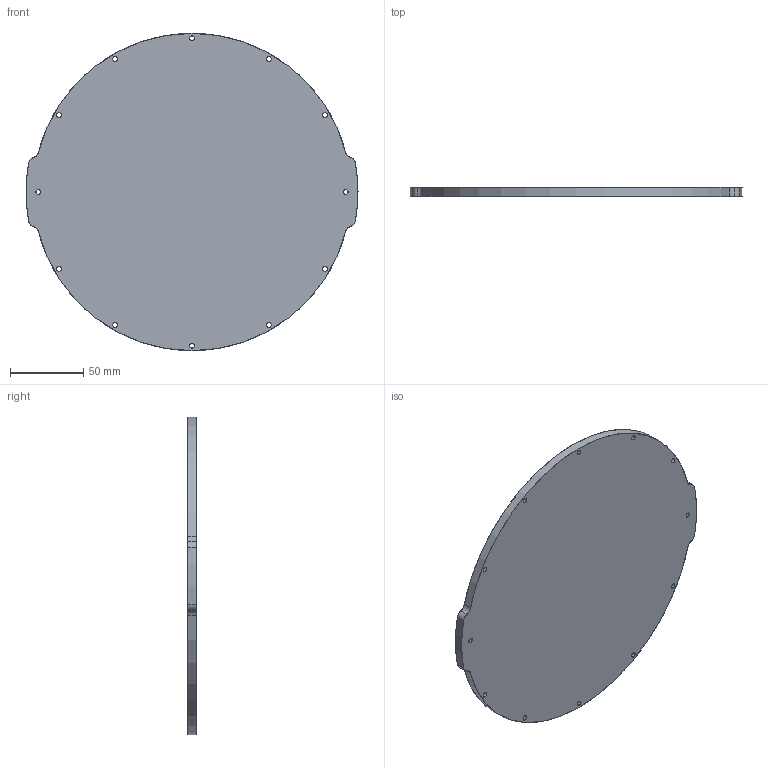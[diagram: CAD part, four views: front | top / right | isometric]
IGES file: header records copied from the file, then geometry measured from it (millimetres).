
Start section: SolidWorks IGES file using analytic representation for surfaces
Global section: file name: C:\Users\Jonathan\Dropbox\BR-Engineering\Models\WTE8-X1A-PUBLIC\WTE8-M-END-CAP-R1.IGS; native system: SolidWorks 2014; preprocessor: SolidWorks 2014; author: Jonathan; date: 170112.112934; units: millimetre
Bounding box: 225.9 x 6 x 215.9 mm (x, y, z)
Surface area: 78843.5 mm2 (no closed solid volume)
Topology: 0 solids, 0 shells, 39 faces, 740 edges, 740 vertices
Faces by surface type: revolution 37, bspline 2
